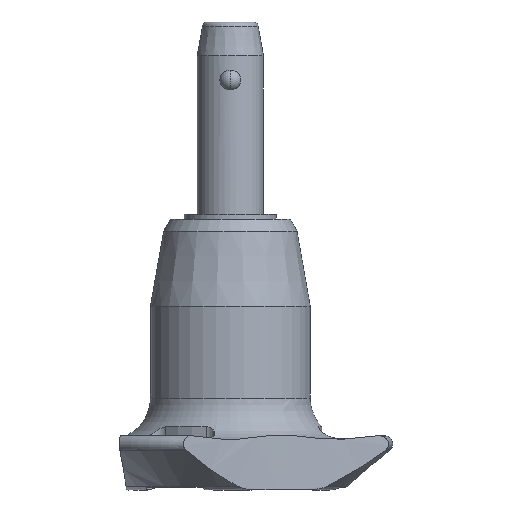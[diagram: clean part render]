
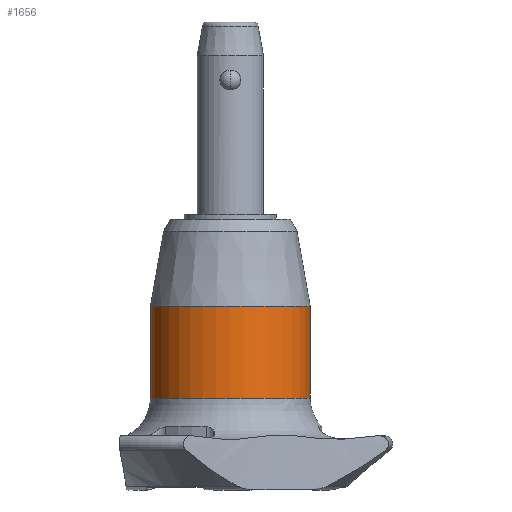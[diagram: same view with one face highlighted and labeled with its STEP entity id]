
A CAD part, front view. The second image highlights one B-rep face of the part: STEP entity #1656.
In plain terms, the highlighted cylindrical face has radius 9.65 mm (diameter 19.3 mm), a partial arc.
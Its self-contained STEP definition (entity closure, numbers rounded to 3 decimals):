
#31 = LINE ( 'NONE', #465, #1810 ) ;
#167 = CARTESIAN_POINT ( 'NONE',  ( 9.65, 0., -26.1 ) ) ;
#186 = ORIENTED_EDGE ( 'NONE', *, *, #859, .F. ) ;
#212 = AXIS2_PLACEMENT_3D ( 'NONE', #2183, #1115, #1492 ) ;
#362 = EDGE_CURVE ( 'NONE', #600, #870, #1178, .T. ) ;
#403 = CARTESIAN_POINT ( 'NONE',  ( 9.65, 0., -37.2 ) ) ;
#430 = VERTEX_POINT ( 'NONE', #887 ) ;
#465 = CARTESIAN_POINT ( 'NONE',  ( -9.65, 0., -37.2 ) ) ;
#517 = CYLINDRICAL_SURFACE ( 'NONE', #2077, 9.65 ) ;
#600 = VERTEX_POINT ( 'NONE', #167 ) ;
#628 = ORIENTED_EDGE ( 'NONE', *, *, #1595, .T. ) ;
#774 = CARTESIAN_POINT ( 'NONE',  ( -9.65, 0., -26.1 ) ) ;
#859 = EDGE_CURVE ( 'NONE', #600, #1862, #2302, .T. ) ;
#870 = VERTEX_POINT ( 'NONE', #774 ) ;
#887 = CARTESIAN_POINT ( 'NONE',  ( -9.65, 0., -37.2 ) ) ;
#1028 = DIRECTION ( 'NONE',  ( 0., 0., -1. ) ) ;
#1115 = DIRECTION ( 'NONE',  ( 0., 0., -1. ) ) ;
#1178 = CIRCLE ( 'NONE', #1222, 9.65 ) ;
#1222 = AXIS2_PLACEMENT_3D ( 'NONE', #2578, #2604, #2395 ) ;
#1230 = CARTESIAN_POINT ( 'NONE',  ( 9.65, 0., -37.2 ) ) ;
#1338 = DIRECTION ( 'NONE',  ( -1., 0., 0. ) ) ;
#1492 = DIRECTION ( 'NONE',  ( -1., 0., 0. ) ) ;
#1595 = EDGE_CURVE ( 'NONE', #870, #430, #31, .T. ) ;
#1656 = ADVANCED_FACE ( 'NONE', ( #2229 ), #517, .T. ) ;
#1731 = DIRECTION ( 'NONE',  ( 0., 0., -1. ) ) ;
#1758 = CARTESIAN_POINT ( 'NONE',  ( 0., 0., -37.2 ) ) ;
#1766 = VECTOR ( 'NONE', #1028, 1000. ) ;
#1798 = DIRECTION ( 'NONE',  ( 0., 0., -1. ) ) ;
#1810 = VECTOR ( 'NONE', #1731, 1000. ) ;
#1816 = CIRCLE ( 'NONE', #212, 9.65 ) ;
#1862 = VERTEX_POINT ( 'NONE', #1230 ) ;
#1943 = EDGE_LOOP ( 'NONE', ( #186, #2570, #628, #2164 ) ) ;
#2077 = AXIS2_PLACEMENT_3D ( 'NONE', #1758, #1798, #1338 ) ;
#2155 = EDGE_CURVE ( 'NONE', #1862, #430, #1816, .T. ) ;
#2164 = ORIENTED_EDGE ( 'NONE', *, *, #2155, .F. ) ;
#2183 = CARTESIAN_POINT ( 'NONE',  ( 0., 0., -37.2 ) ) ;
#2229 = FACE_OUTER_BOUND ( 'NONE', #1943, .T. ) ;
#2302 = LINE ( 'NONE', #403, #1766 ) ;
#2395 = DIRECTION ( 'NONE',  ( -1., 0., 0. ) ) ;
#2570 = ORIENTED_EDGE ( 'NONE', *, *, #362, .T. ) ;
#2578 = CARTESIAN_POINT ( 'NONE',  ( 0., 0., -26.1 ) ) ;
#2604 = DIRECTION ( 'NONE',  ( 0., 0., -1. ) ) ;
